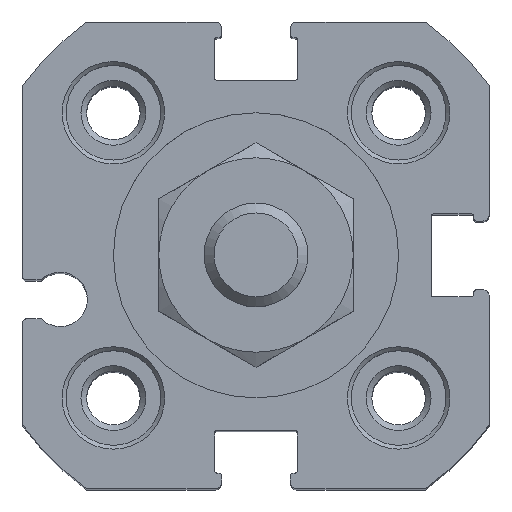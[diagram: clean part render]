
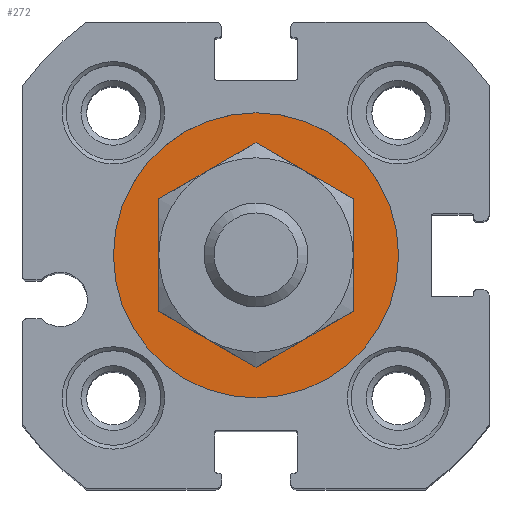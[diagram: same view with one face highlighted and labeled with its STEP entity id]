
A CAD part, top view. The second image highlights one B-rep face of the part: STEP entity #272.
In plain terms, the highlighted planar face has unit normal (0, 0, 1).
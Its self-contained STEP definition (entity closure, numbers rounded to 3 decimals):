
#272 = ADVANCED_FACE( '', ( #652, #653 ), #654, .T. );
#652 = FACE_BOUND( '', #1198, .T. );
#653 = FACE_OUTER_BOUND( '', #1199, .T. );
#654 = PLANE( '', #1200 );
#1198 = EDGE_LOOP( '', ( #1832 ) );
#1199 = EDGE_LOOP( '', ( #1833 ) );
#1200 = AXIS2_PLACEMENT_3D( '', #1834, #1835, #1836 );
#1832 = ORIENTED_EDGE( '', *, *, #2998, .F. );
#1833 = ORIENTED_EDGE( '', *, *, #2999, .T. );
#1834 = CARTESIAN_POINT( '', ( 0., 0., -1.2 ) );
#1835 = DIRECTION( '', ( 0., 0., 1. ) );
#1836 = DIRECTION( '', ( 1., 0., 0. ) );
#2998 = EDGE_CURVE( '', #3545, #3545, #3546, .T. );
#2999 = EDGE_CURVE( '', #3547, #3547, #3548, .T. );
#3545 = VERTEX_POINT( '', #4309 );
#3546 = CIRCLE( '', #4310, 6.5 );
#3547 = VERTEX_POINT( '', #4311 );
#3548 = CIRCLE( '', #4312, 11. );
#4309 = CARTESIAN_POINT( '', ( 6.5, 0., -1.2 ) );
#4310 = AXIS2_PLACEMENT_3D( '', #5188, #5189, #5190 );
#4311 = CARTESIAN_POINT( '', ( 11., 0., -1.2 ) );
#4312 = AXIS2_PLACEMENT_3D( '', #5191, #5192, #5193 );
#5188 = CARTESIAN_POINT( '', ( 0., 0., -1.2 ) );
#5189 = DIRECTION( '', ( 0., 0., 1. ) );
#5190 = DIRECTION( '', ( 1., 0., 0. ) );
#5191 = CARTESIAN_POINT( '', ( 0., 0., -1.2 ) );
#5192 = DIRECTION( '', ( 0., 0., 1. ) );
#5193 = DIRECTION( '', ( 1., 0., 0. ) );
